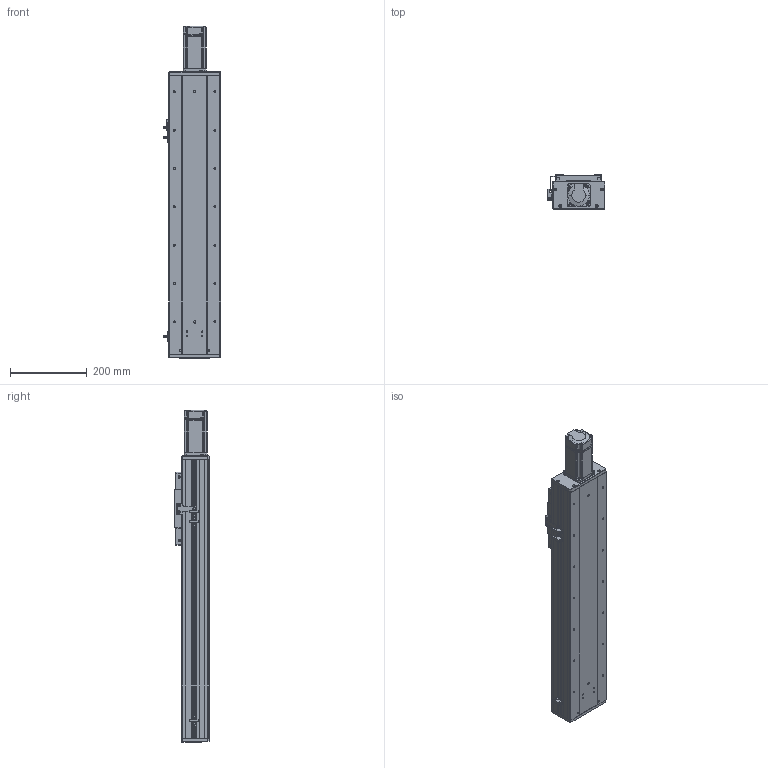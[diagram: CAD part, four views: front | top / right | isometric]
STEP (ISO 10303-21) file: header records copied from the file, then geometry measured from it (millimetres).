
FILE_DESCRIPTION (( 'STEP AP203' ), '1' );
FILE_NAME ('RY140F-L2020-300-MK.SLDASM_450.step', '2021-03-02T06:23:52', ( '盈信电脑' ), ( '东莞市道滘镇水果街19号' ), 'SwSTEP 2.0', 'SolidWorks 2012', '' );
FILE_SCHEMA (( 'CONFIG_CONTROL_DESIGN' ));
Length unit declared in the file: millimetre
Products named in the file (18): RY140F-L2020-300-MK.SLDASM_450; 侐源滅袉蝶; 滅袉蝶18-10; RY140F-672覜茼んえ; RY140F-詩湍揤え; 覜茼ん672; RY140F-后盖板(铝件）; RY140F-直连前盖板(铝件）; 侂狟400W侜督萇儂; 15; RY100F-詩湍揤踡謫; RY140F-詩湍幗謫粣; RY140F-滅鳥奻裔; RY140F-直连型材铝滑块(16丝杆); RY140F-直连型材铝滑块连接座; RY140F-300-MK眻蟀倰第奻裔啣_450; RY140F-300-MK眻蟀詩湍_450; RY140F-300-MK眻蟀倰第菁釱_450
Assembly tree (22 placements, depth 3):
  RY140F-L2020-300-MK.SLDASM_450
    RY140F-300-MK眻蟀倰第菁釱_450
    RY140F-300-MK眻蟀倰第奻裔啣_450  x2
    RY140F-300-MK眻蟀詩湍_450
    RY140F-直连型材铝滑块连接座
    RY140F-滅鳥奻裔
    RY140F-詩湍幗謫粣
    RY100F-詩湍揤踡謫
    RY140F-直连型材铝滑块(16丝杆)
    RY140F-直连前盖板(铝件）
    RY140F-后盖板(铝件）
    侂狟400W侜督萇儂
      15
    覜茼ん672  x3
    RY140F-672覜茼んえ
    RY140F-詩湍揤え  x2
    滅袉蝶18-10
    侐源滅袉蝶  x2
Bounding box: 148.7 x 91 x 865.5 mm (x, y, z)
Volume: 3127796 mm3; surface area: 1060545.1 mm2
Topology: 21 solids, 21 shells, 1916 faces, 5277 edges, 3392 vertices
Faces by surface type: cylinder 866, plane 854, cone 174, bspline 18, torus 4
Entity records: 55554 total; most frequent: CARTESIAN_POINT 11189, DIRECTION 9028, ORIENTED_EDGE 8710, EDGE_CURVE 4355, AXIS2_PLACEMENT_3D 3219, VERTEX_POINT 2860, LINE 2590, VECTOR 2590
